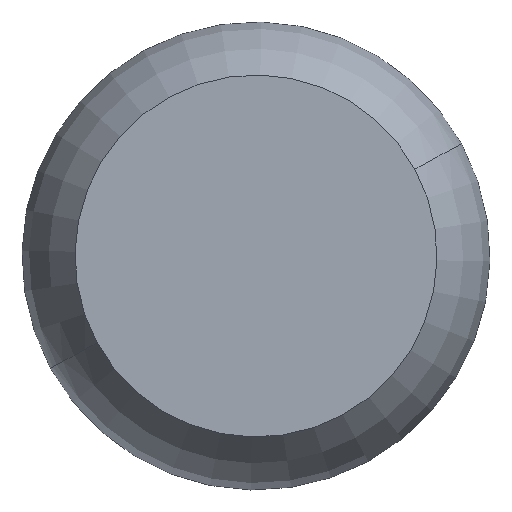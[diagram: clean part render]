
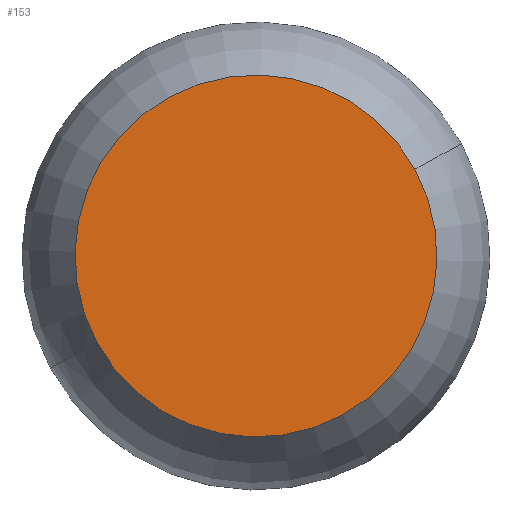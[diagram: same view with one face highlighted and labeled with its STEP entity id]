
A CAD part, front view. The second image highlights one B-rep face of the part: STEP entity #153.
In plain terms, the highlighted planar face has unit normal (0, -1, 0).
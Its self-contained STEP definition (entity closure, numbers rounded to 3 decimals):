
#66=CARTESIAN_POINT('Axis2P3D Location',(0.,0.,0.)) ;
#70=CARTESIAN_POINT('Vertex',(100.044,0.,54.655)) ;
#72=CARTESIAN_POINT('Vertex',(-100.044,0.,-54.655)) ;
#127=CARTESIAN_POINT('Axis2P3D Location',(0.,0.,0.)) ;
#144=CARTESIAN_POINT('Axis2P3D Location',(0.,0.,0.)) ;
#67=DIRECTION('Axis2P3D Direction',(0.,-1.,0.)) ;
#128=DIRECTION('Axis2P3D Direction',(0.,-1.,0.)) ;
#145=DIRECTION('Axis2P3D Direction',(0.,-1.,0.)) ;
#146=DIRECTION('Axis2P3D XDirection',(1.,0.,0.)) ;
#68=AXIS2_PLACEMENT_3D('Circle Axis2P3D',#66,#67,$) ;
#129=AXIS2_PLACEMENT_3D('Circle Axis2P3D',#127,#128,$) ;
#147=AXIS2_PLACEMENT_3D('Plane Axis2P3D',#144,#145,#146) ;
#150=ORIENTED_EDGE('',*,*,#74,.T.) ;
#151=ORIENTED_EDGE('',*,*,#131,.T.) ;
#153=ADVANCED_FACE('PartBody',(#152),#148,.T.) ;
#69=CIRCLE('generated circle',#68,114.) ;
#130=CIRCLE('generated circle',#129,114.) ;
#74=EDGE_CURVE('',#71,#73,#69,.T.) ;
#131=EDGE_CURVE('',#73,#71,#130,.T.) ;
#149=EDGE_LOOP('',(#150,#151)) ;
#152=FACE_OUTER_BOUND('',#149,.T.) ;
#148=PLANE('',#147) ;
#71=VERTEX_POINT('',#70) ;
#73=VERTEX_POINT('',#72) ;
